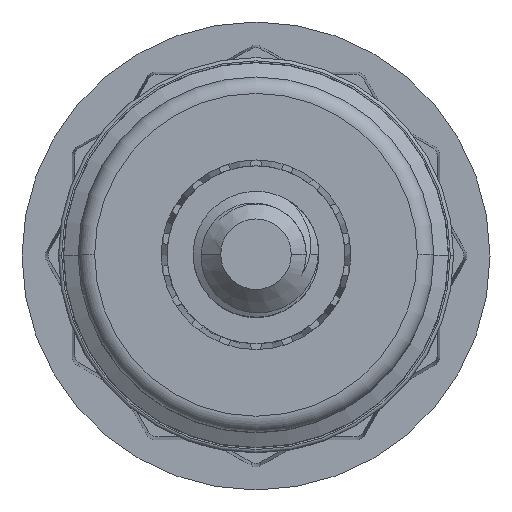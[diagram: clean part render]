
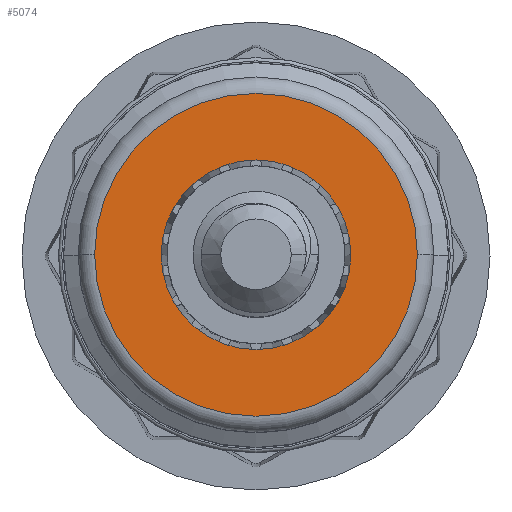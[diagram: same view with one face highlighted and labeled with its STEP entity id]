
A CAD part, top view. The second image highlights one B-rep face of the part: STEP entity #5074.
In plain terms, the highlighted planar face has unit normal (0, 0, 1).
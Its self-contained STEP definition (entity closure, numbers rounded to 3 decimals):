
#241 = ORIENTED_EDGE ( 'NONE', *, *, #388, .F. ) ;
#269 = CARTESIAN_POINT ( 'NONE',  ( 2.879, 0., 24. ) ) ;
#295 = DIRECTION ( 'NONE',  ( 1., 0., 0. ) ) ;
#388 = EDGE_CURVE ( 'NONE', #9936, #4304, #4668, .T. ) ;
#433 = DIRECTION ( 'NONE',  ( 0., 0., 1. ) ) ;
#480 = FACE_OUTER_BOUND ( 'NONE', #10149, .T. ) ;
#529 = DIRECTION ( 'NONE',  ( 0., 0., 1. ) ) ;
#693 = ORIENTED_EDGE ( 'NONE', *, *, #5337, .T. ) ;
#1282 = ORIENTED_EDGE ( 'NONE', *, *, #5084, .T. ) ;
#2424 = DIRECTION ( 'NONE',  ( -1., 0., 0. ) ) ;
#3084 = AXIS2_PLACEMENT_3D ( 'NONE', #6478, #5619, #2424 ) ;
#3226 = CARTESIAN_POINT ( 'NONE',  ( -2.879, 0., 24. ) ) ;
#3369 = CARTESIAN_POINT ( 'NONE',  ( 4.9, 0., 24. ) ) ;
#3565 = CIRCLE ( 'NONE', #7539, 4.9 ) ;
#3584 = CARTESIAN_POINT ( 'NONE',  ( -4.9, 0., 24. ) ) ;
#3618 = DIRECTION ( 'NONE',  ( -1., 0., 0. ) ) ;
#3656 = EDGE_CURVE ( 'NONE', #4304, #9936, #8186, .T. ) ;
#3956 = CIRCLE ( 'NONE', #9215, 4.9 ) ;
#4304 = VERTEX_POINT ( 'NONE', #3226 ) ;
#4570 = CARTESIAN_POINT ( 'NONE',  ( 0., 0., 24. ) ) ;
#4668 = CIRCLE ( 'NONE', #6295, 2.879 ) ;
#4909 = DIRECTION ( 'NONE',  ( 0., 0., 1. ) ) ;
#5074 = ADVANCED_FACE ( 'NONE', ( #480, #7715 ), #7360, .F. ) ;
#5084 = EDGE_CURVE ( 'NONE', #5775, #9292, #3956, .T. ) ;
#5116 = AXIS2_PLACEMENT_3D ( 'NONE', #5226, #6952, #295 ) ;
#5226 = CARTESIAN_POINT ( 'NONE',  ( 0., 0., 24. ) ) ;
#5337 = EDGE_CURVE ( 'NONE', #9292, #5775, #3565, .T. ) ;
#5429 = DIRECTION ( 'NONE',  ( 1., 0., 0. ) ) ;
#5533 = ORIENTED_EDGE ( 'NONE', *, *, #3656, .F. ) ;
#5619 = DIRECTION ( 'NONE',  ( 0., 0., -1. ) ) ;
#5775 = VERTEX_POINT ( 'NONE', #3369 ) ;
#6295 = AXIS2_PLACEMENT_3D ( 'NONE', #4570, #433, #5429 ) ;
#6478 = CARTESIAN_POINT ( 'NONE',  ( 0., 5.4, 24. ) ) ;
#6943 = CARTESIAN_POINT ( 'NONE',  ( 0., 0., 24. ) ) ;
#6952 = DIRECTION ( 'NONE',  ( 0., 0., 1. ) ) ;
#7360 = PLANE ( 'NONE',  #3084 ) ;
#7539 = AXIS2_PLACEMENT_3D ( 'NONE', #6943, #529, #3618 ) ;
#7715 = FACE_BOUND ( 'NONE', #8760, .T. ) ;
#8186 = CIRCLE ( 'NONE', #5116, 2.879 ) ;
#8760 = EDGE_LOOP ( 'NONE', ( #241, #5533 ) ) ;
#9215 = AXIS2_PLACEMENT_3D ( 'NONE', #10615, #4909, #10727 ) ;
#9292 = VERTEX_POINT ( 'NONE', #3584 ) ;
#9936 = VERTEX_POINT ( 'NONE', #269 ) ;
#10149 = EDGE_LOOP ( 'NONE', ( #693, #1282 ) ) ;
#10615 = CARTESIAN_POINT ( 'NONE',  ( 0., 0., 24. ) ) ;
#10727 = DIRECTION ( 'NONE',  ( -1., 0., 0. ) ) ;
